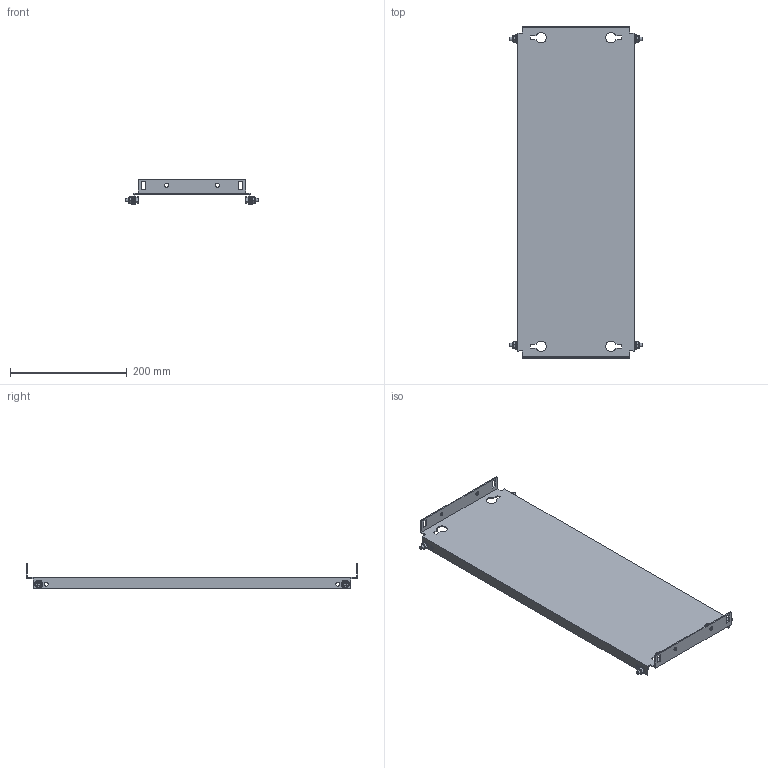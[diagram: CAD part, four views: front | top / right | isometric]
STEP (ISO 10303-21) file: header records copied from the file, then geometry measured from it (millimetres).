
FILE_DESCRIPTION(('Open CASCADE Model'),'2;1');
FILE_NAME('Open CASCADE Shape Model','2025-02-20T13:24:41',('Author'),( 'Open CASCADE'),'Open CASCADE STEP processor 7.8','Open CASCADE 7.8' ,'Unknown');
FILE_SCHEMA(('AUTOMOTIVE_DESIGN { 1 0 10303 214 1 1 1 1 }'));
Length unit declared in the file: millimetre
Products named in the file (4): Compound1; Solid1; Solid2; Solid3
Assembly tree (9 placements, depth 2):
  Compound1
    Solid1
    Solid2  x4
    Solid3  x4
Bounding box: 228 x 569 x 43 mm (x, y, z)
Volume: 283703.7 mm3; surface area: 287605.8 mm2
Topology: 9 solids, 9 shells, 306 faces, 746 edges, 462 vertices
Faces by surface type: plane 150, cone 68, bspline 48, cylinder 28, torus 12
Full cylindrical faces by diameter (mm): 5 x4, 6 x8, 7 x12
Entity records: 4844 total; most frequent: CARTESIAN_POINT 1361, ORIENTED_EDGE 742, DIRECTION 628, EDGE_CURVE 371, VERTEX_POINT 240, LINE 216, VECTOR 216, AXIS2_PLACEMENT_3D 206
